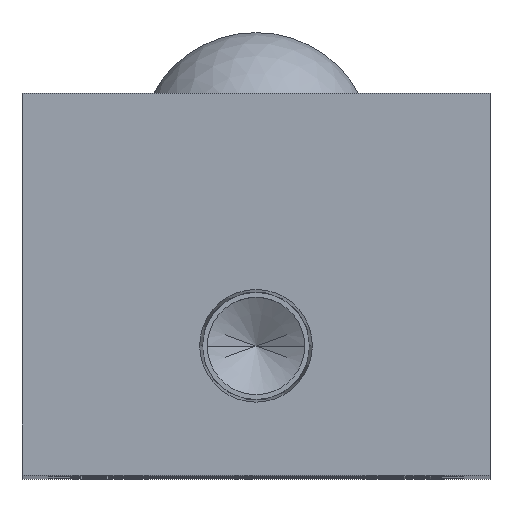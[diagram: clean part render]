
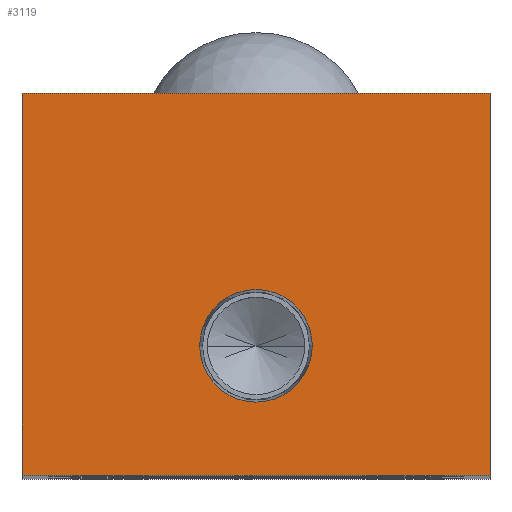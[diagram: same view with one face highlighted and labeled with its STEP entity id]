
A CAD part, top view. The second image highlights one B-rep face of the part: STEP entity #3119.
In plain terms, the highlighted planar face has unit normal (0, 0, 1).
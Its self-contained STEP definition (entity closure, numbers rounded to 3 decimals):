
#81 = DIRECTION ( 'NONE',  ( 1., 0., 0. ) ) ;
#109 = VERTEX_POINT ( 'NONE', #1533 ) ;
#231 = VECTOR ( 'NONE', #1821, 1000. ) ;
#312 = ORIENTED_EDGE ( 'NONE', *, *, #3814, .T. ) ;
#502 = ORIENTED_EDGE ( 'NONE', *, *, #3723, .F. ) ;
#973 = LINE ( 'NONE', #3990, #231 ) ;
#1030 = CARTESIAN_POINT ( 'NONE',  ( 0., 10.5, 0. ) ) ;
#1078 = VECTOR ( 'NONE', #4595, 1000. ) ;
#1232 = VERTEX_POINT ( 'NONE', #3829 ) ;
#1353 = LINE ( 'NONE', #1859, #2330 ) ;
#1401 = DIRECTION ( 'NONE',  ( 1., 0., 0. ) ) ;
#1511 = AXIS2_PLACEMENT_3D ( 'NONE', #1646, #2009, #4540 ) ;
#1533 = CARTESIAN_POINT ( 'NONE',  ( 4.574, 10.5, 0. ) ) ;
#1612 = CARTESIAN_POINT ( 'NONE',  ( 19., 31., 0. ) ) ;
#1646 = CARTESIAN_POINT ( 'NONE',  ( 0., 0., 0. ) ) ;
#1678 = EDGE_CURVE ( 'NONE', #1232, #2370, #3208, .T. ) ;
#1765 = FACE_OUTER_BOUND ( 'NONE', #4558, .T. ) ;
#1821 = DIRECTION ( 'NONE',  ( 1., 0., 0. ) ) ;
#1833 = CARTESIAN_POINT ( 'NONE',  ( -19., 0., 0. ) ) ;
#1859 = CARTESIAN_POINT ( 'NONE',  ( 19., 31., 0. ) ) ;
#1871 = CARTESIAN_POINT ( 'NONE',  ( -19., 0., 0. ) ) ;
#1926 = VERTEX_POINT ( 'NONE', #3656 ) ;
#2009 = DIRECTION ( 'NONE',  ( 0., 0., -1. ) ) ;
#2126 = VECTOR ( 'NONE', #3259, 1000. ) ;
#2264 = DIRECTION ( 'NONE',  ( 0., 0., 1. ) ) ;
#2330 = VECTOR ( 'NONE', #4026, 1000. ) ;
#2357 = EDGE_CURVE ( 'NONE', #1926, #3086, #1353, .T. ) ;
#2370 = VERTEX_POINT ( 'NONE', #1871 ) ;
#2415 = EDGE_CURVE ( 'NONE', #109, #3288, #4024, .T. ) ;
#2505 = FACE_BOUND ( 'NONE', #4622, .T. ) ;
#2776 = ORIENTED_EDGE ( 'NONE', *, *, #1678, .T. ) ;
#2823 = CARTESIAN_POINT ( 'NONE',  ( -4.574, 10.5, 0. ) ) ;
#2920 = ORIENTED_EDGE ( 'NONE', *, *, #3266, .T. ) ;
#3009 = LINE ( 'NONE', #3165, #1078 ) ;
#3086 = VERTEX_POINT ( 'NONE', #1612 ) ;
#3119 = ADVANCED_FACE ( 'NONE', ( #2505, #1765 ), #3822, .F. ) ;
#3146 = ORIENTED_EDGE ( 'NONE', *, *, #2415, .F. ) ;
#3165 = CARTESIAN_POINT ( 'NONE',  ( -19., 31., 0. ) ) ;
#3208 = LINE ( 'NONE', #1833, #2126 ) ;
#3259 = DIRECTION ( 'NONE',  ( 0., -1., 0. ) ) ;
#3266 = EDGE_CURVE ( 'NONE', #3086, #1232, #3009, .T. ) ;
#3288 = VERTEX_POINT ( 'NONE', #2823 ) ;
#3521 = AXIS2_PLACEMENT_3D ( 'NONE', #1030, #3570, #1401 ) ;
#3570 = DIRECTION ( 'NONE',  ( 0., 0., 1. ) ) ;
#3656 = CARTESIAN_POINT ( 'NONE',  ( 19., 0., 0. ) ) ;
#3723 = EDGE_CURVE ( 'NONE', #3288, #109, #4206, .T. ) ;
#3814 = EDGE_CURVE ( 'NONE', #2370, #1926, #973, .T. ) ;
#3822 = PLANE ( 'NONE',  #1511 ) ;
#3829 = CARTESIAN_POINT ( 'NONE',  ( -19., 31., 0. ) ) ;
#3929 = AXIS2_PLACEMENT_3D ( 'NONE', #4423, #2264, #81 ) ;
#3990 = CARTESIAN_POINT ( 'NONE',  ( 19., 0., 0. ) ) ;
#4024 = CIRCLE ( 'NONE', #3929, 4.574 ) ;
#4026 = DIRECTION ( 'NONE',  ( 0., 1., 0. ) ) ;
#4206 = CIRCLE ( 'NONE', #3521, 4.574 ) ;
#4208 = ORIENTED_EDGE ( 'NONE', *, *, #2357, .T. ) ;
#4423 = CARTESIAN_POINT ( 'NONE',  ( 0., 10.5, 0. ) ) ;
#4540 = DIRECTION ( 'NONE',  ( -1., 0., 0. ) ) ;
#4558 = EDGE_LOOP ( 'NONE', ( #2776, #312, #4208, #2920 ) ) ;
#4595 = DIRECTION ( 'NONE',  ( -1., 0., 0. ) ) ;
#4622 = EDGE_LOOP ( 'NONE', ( #3146, #502 ) ) ;
